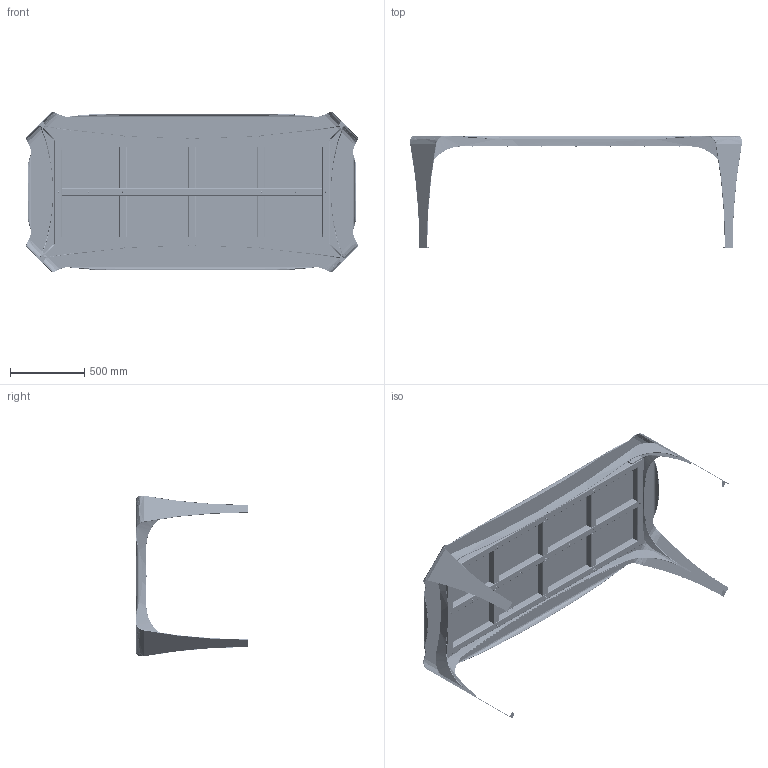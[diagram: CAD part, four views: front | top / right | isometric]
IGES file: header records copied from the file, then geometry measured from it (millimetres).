
Start section: SolidWorks IGES file using analytic representation for surfaces
Global section: file name: \\192.168.0.53\Reserch Development\FOTO DE CASTELLI\PRODOTTI\3D_IGES\DeCastelli_convivium.IGS; native system: SolidWorks 2018; preprocessor: SolidWorks 2018; author: AlessandroP; date: 181207.162211; units: millimetre
Bounding box: 2231.5 x 751.68 x 1081.5 mm (x, y, z)
Surface area: 10136778.5 mm2 (no closed solid volume)
Topology: 0 solids, 0 shells, 7757 faces, 161998 edges, 161998 vertices
Faces by surface type: revolution 6273, bspline 1484
